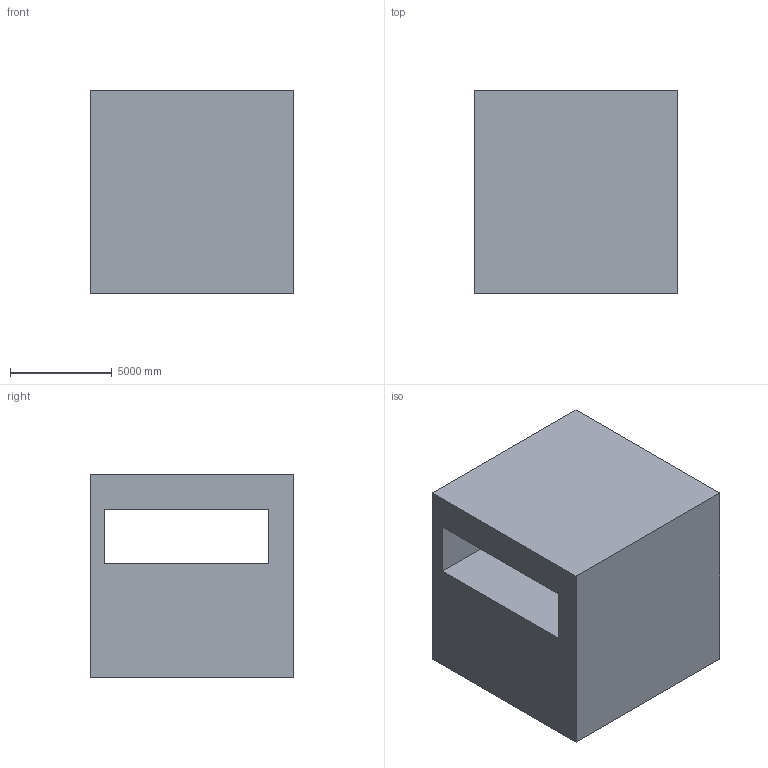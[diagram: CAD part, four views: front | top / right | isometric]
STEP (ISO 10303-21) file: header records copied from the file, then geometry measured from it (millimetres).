
FILE_DESCRIPTION (( 'STEP AP203' ), '1' );
FILE_NAME ('25.STEP', '2022-07-28T13:26:09', ( 'user' ), ( '' ), 'SwSTEP 2.0', 'SolidWorks 2021', '' );
FILE_SCHEMA (( 'CONFIG_CONTROL_DESIGN' ));
Length unit declared in the file: centimetre
Products named in the file (1): 25
Bounding box: 10000 x 10000 x 10000 mm (x, y, z)
Volume: 755685898597.8 mm3; surface area: 803660106.4 mm2
Topology: 1 solids, 1 shells, 15 faces, 36 edges, 24 vertices
Faces by surface type: plane 15
Entity records: 511 total; most frequent: CARTESIAN_POINT 76, ORIENTED_EDGE 72, DIRECTION 68, VECTOR 36, EDGE_CURVE 36, LINE 36, VERTEX_POINT 24, EDGE_LOOP 18
